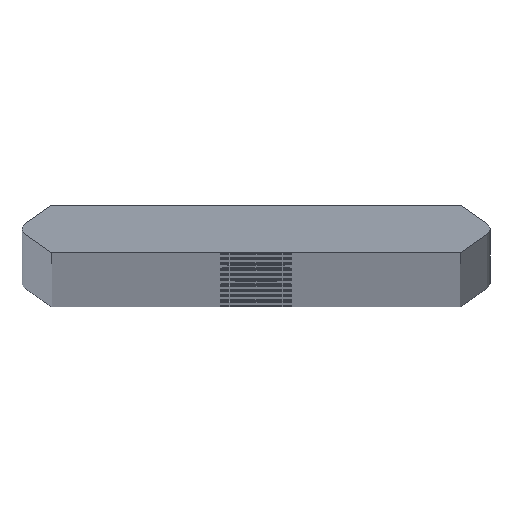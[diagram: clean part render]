
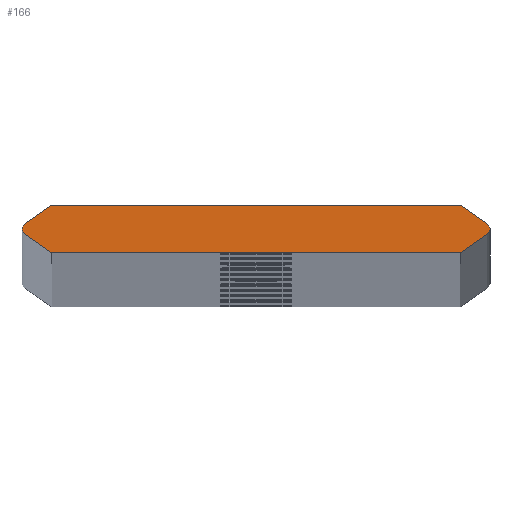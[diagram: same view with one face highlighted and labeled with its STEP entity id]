
A CAD part, top view. The second image highlights one B-rep face of the part: STEP entity #166.
In plain terms, the highlighted planar face has unit normal (0, 0, 1).
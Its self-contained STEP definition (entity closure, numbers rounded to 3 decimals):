
#166=ADVANCED_FACE('',(#358),#359,.T.);
#358=FACE_OUTER_BOUND('',#646,.T.);
#359=PLANE('',#647);
#646=EDGE_LOOP('',(#1389,#1390,#1391,#1392,#1393,#1394,#1395,#1396,#1397,#1398));
#647=AXIS2_PLACEMENT_3D('',#1399,#1400,#1401);
#1389=ORIENTED_EDGE('',*,*,#1645,.T.);
#1390=ORIENTED_EDGE('',*,*,#1914,.T.);
#1391=ORIENTED_EDGE('',*,*,#1915,.F.);
#1392=ORIENTED_EDGE('',*,*,#1916,.F.);
#1393=ORIENTED_EDGE('',*,*,#1917,.F.);
#1394=ORIENTED_EDGE('',*,*,#1641,.T.);
#1395=ORIENTED_EDGE('',*,*,#1918,.T.);
#1396=ORIENTED_EDGE('',*,*,#1919,.F.);
#1397=ORIENTED_EDGE('',*,*,#1920,.F.);
#1398=ORIENTED_EDGE('',*,*,#1921,.F.);
#1399=CARTESIAN_POINT('',(0.,0.,3956.0));
#1400=DIRECTION('',(0.0,0.0,1.0));
#1401=DIRECTION('',(1.0,0.0,0.0));
#1641=EDGE_CURVE('',#1937,#1934,#1938,.T.);
#1645=EDGE_CURVE('',#1945,#1942,#1946,.T.);
#1914=EDGE_CURVE('',#1942,#2392,#2394,.T.);
#1915=EDGE_CURVE('',#2395,#2392,#2396,.T.);
#1916=EDGE_CURVE('',#2397,#2395,#2398,.T.);
#1917=EDGE_CURVE('',#1937,#2397,#2399,.T.);
#1918=EDGE_CURVE('',#1934,#2400,#2401,.T.);
#1919=EDGE_CURVE('',#2402,#2400,#2403,.T.);
#1920=EDGE_CURVE('',#2404,#2402,#2405,.T.);
#1921=EDGE_CURVE('',#1945,#2404,#2406,.T.);
#1934=VERTEX_POINT('',#2424);
#1937=VERTEX_POINT('',#2428);
#1938=CIRCLE('',#2429,0.76);
#1942=VERTEX_POINT('',#2434);
#1945=VERTEX_POINT('',#2438);
#1946=CIRCLE('',#2439,0.76);
#2392=VERTEX_POINT('',#2974);
#2394=CIRCLE('',#2977,0.76);
#2395=VERTEX_POINT('',#2978);
#2396=LINE('',#2979,#2980);
#2397=VERTEX_POINT('',#2981);
#2398=LINE('',#2982,#2983);
#2399=LINE('',#2984,#2985);
#2400=VERTEX_POINT('',#2986);
#2401=CIRCLE('',#2987,0.76);
#2402=VERTEX_POINT('',#2988);
#2403=LINE('',#2989,#2990);
#2404=VERTEX_POINT('',#2991);
#2405=LINE('',#2992,#2993);
#2406=LINE('',#2994,#2995);
#2424=CARTESIAN_POINT('',(29.84,0.,3956.0));
#2428=CARTESIAN_POINT('',(29.519,-0.62,3956.0));
#2429=AXIS2_PLACEMENT_3D('',#3025,#3026,#3027);
#2434=CARTESIAN_POINT('',(-29.84,0.,3956.0));
#2438=CARTESIAN_POINT('',(-29.519,0.62,3956.0));
#2439=AXIS2_PLACEMENT_3D('',#3033,#3034,#3035);
#2974=CARTESIAN_POINT('',(-29.519,-0.62,3956.0));
#2977=AXIS2_PLACEMENT_3D('',#3660,#3661,#3662);
#2978=CARTESIAN_POINT('',(-26.049,-3.05,3956.0));
#2979=CARTESIAN_POINT('',(-30.405,0.,3956.0));
#2980=VECTOR('',#3663,1.0);
#2981=CARTESIAN_POINT('',(26.049,-3.05,3956.0));
#2982=CARTESIAN_POINT('',(26.049,-3.05,3956.0));
#2983=VECTOR('',#3664,1.0);
#2984=CARTESIAN_POINT('',(30.405,0.0,3956.0));
#2985=VECTOR('',#3665,1.0);
#2986=CARTESIAN_POINT('',(29.519,0.62,3956.0));
#2987=AXIS2_PLACEMENT_3D('',#3666,#3667,#3668);
#2988=CARTESIAN_POINT('',(26.049,3.05,3956.0));
#2989=CARTESIAN_POINT('',(30.405,0.0,3956.0));
#2990=VECTOR('',#3669,1.0);
#2991=CARTESIAN_POINT('',(-26.049,3.05,3956.0));
#2992=CARTESIAN_POINT('',(-26.049,3.05,3956.0));
#2993=VECTOR('',#3670,1.0);
#2994=CARTESIAN_POINT('',(-30.405,0.,3956.0));
#2995=VECTOR('',#3671,1.0);
#3025=CARTESIAN_POINT('',(29.08,0.0,3956.0));
#3026=DIRECTION('',(0.0,0.0,1.0));
#3027=DIRECTION('',(1.0,0.0,0.0));
#3033=CARTESIAN_POINT('',(-29.08,0.,3956.0));
#3034=DIRECTION('',(0.0,0.0,1.0));
#3035=DIRECTION('',(-1.0,0.,0.0));
#3660=CARTESIAN_POINT('',(-29.08,0.,3956.0));
#3661=DIRECTION('',(0.0,0.0,1.0));
#3662=DIRECTION('',(-1.0,0.,0.0));
#3663=DIRECTION('',(-0.819,0.574,0.0));
#3664=DIRECTION('',(-1.0,0.,0.0));
#3665=DIRECTION('',(-0.819,-0.574,0.0));
#3666=CARTESIAN_POINT('',(29.08,0.0,3956.0));
#3667=DIRECTION('',(0.0,0.0,1.0));
#3668=DIRECTION('',(1.0,0.0,0.0));
#3669=DIRECTION('',(0.819,-0.574,0.0));
#3670=DIRECTION('',(1.0,0.,0.0));
#3671=DIRECTION('',(0.819,0.574,0.0));
